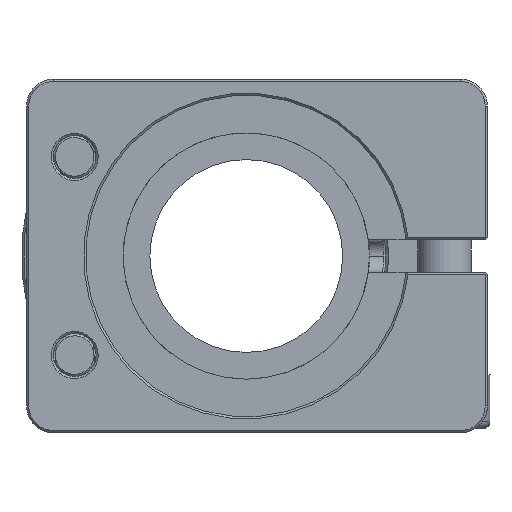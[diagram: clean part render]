
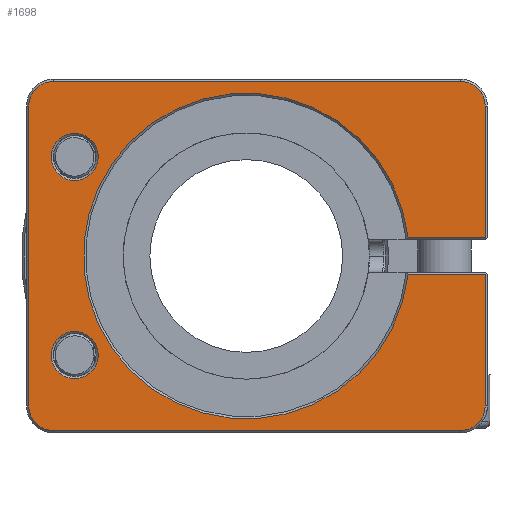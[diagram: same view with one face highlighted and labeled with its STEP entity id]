
A CAD part, front view. The second image highlights one B-rep face of the part: STEP entity #1698.
In plain terms, the highlighted planar face has unit normal (0, -1, 0).
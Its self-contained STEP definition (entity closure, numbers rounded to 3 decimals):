
#1571=FACE_BOUND('',#2147,.T.);
#1572=FACE_BOUND('',#2148,.T.);
#1573=FACE_BOUND('',#2149,.T.);
#1698=ADVANCED_FACE('',(#1571,#1572,#1573),#1890,.F.);
#1890=PLANE('',#4551);
#2147=EDGE_LOOP('',(#2595,#2596,#2597,#2598,#2599,#2600,#2601,#2602,#2603,
#2604,#2605,#2606));
#2148=EDGE_LOOP('',(#2607));
#2149=EDGE_LOOP('',(#2608));
#2416=CIRCLE('',#4544,2.3);
#2417=CIRCLE('',#4545,2.3);
#2418=CIRCLE('',#4546,2.3);
#2419=CIRCLE('',#4547,2.3);
#2420=CIRCLE('',#4548,15.2);
#2421=CIRCLE('',#4549,2.2);
#2422=CIRCLE('',#4550,2.2);
#2595=ORIENTED_EDGE('',*,*,#3698,.T.);
#2596=ORIENTED_EDGE('',*,*,#3699,.T.);
#2597=ORIENTED_EDGE('',*,*,#3700,.T.);
#2598=ORIENTED_EDGE('',*,*,#3701,.T.);
#2599=ORIENTED_EDGE('',*,*,#3702,.T.);
#2600=ORIENTED_EDGE('',*,*,#3703,.T.);
#2601=ORIENTED_EDGE('',*,*,#3704,.T.);
#2602=ORIENTED_EDGE('',*,*,#3705,.T.);
#2603=ORIENTED_EDGE('',*,*,#3706,.T.);
#2604=ORIENTED_EDGE('',*,*,#3707,.T.);
#2605=ORIENTED_EDGE('',*,*,#3708,.T.);
#2606=ORIENTED_EDGE('',*,*,#3709,.T.);
#2607=ORIENTED_EDGE('',*,*,#3710,.T.);
#2608=ORIENTED_EDGE('',*,*,#3711,.T.);
#3419=VERTEX_POINT('',#5862);
#3420=VERTEX_POINT('',#5863);
#3421=VERTEX_POINT('',#5865);
#3422=VERTEX_POINT('',#5867);
#3423=VERTEX_POINT('',#5869);
#3424=VERTEX_POINT('',#5871);
#3425=VERTEX_POINT('',#5873);
#3426=VERTEX_POINT('',#5875);
#3427=VERTEX_POINT('',#5877);
#3428=VERTEX_POINT('',#5879);
#3429=VERTEX_POINT('',#5881);
#3430=VERTEX_POINT('',#5883);
#3431=VERTEX_POINT('',#5886);
#3432=VERTEX_POINT('',#5888);
#3698=EDGE_CURVE('',#3419,#3420,#4090,.T.);
#3699=EDGE_CURVE('',#3420,#3421,#2416,.T.);
#3700=EDGE_CURVE('',#3421,#3422,#4091,.T.);
#3701=EDGE_CURVE('',#3422,#3423,#2417,.T.);
#3702=EDGE_CURVE('',#3423,#3424,#4092,.T.);
#3703=EDGE_CURVE('',#3424,#3425,#2418,.T.);
#3704=EDGE_CURVE('',#3425,#3426,#4093,.T.);
#3705=EDGE_CURVE('',#3426,#3427,#2419,.T.);
#3706=EDGE_CURVE('',#3427,#3428,#4094,.T.);
#3707=EDGE_CURVE('',#3428,#3429,#4095,.T.);
#3708=EDGE_CURVE('',#3429,#3430,#2420,.T.);
#3709=EDGE_CURVE('',#3430,#3419,#4096,.T.);
#3710=EDGE_CURVE('',#3431,#3431,#2421,.T.);
#3711=EDGE_CURVE('',#3432,#3432,#2422,.T.);
#4090=LINE('',#5861,#4317);
#4091=LINE('',#5866,#4318);
#4092=LINE('',#5870,#4319);
#4093=LINE('',#5874,#4320);
#4094=LINE('',#5878,#4321);
#4095=LINE('',#5880,#4322);
#4096=LINE('',#5884,#4323);
#4317=VECTOR('',#4946,1.);
#4318=VECTOR('',#4949,1.);
#4319=VECTOR('',#4952,1.);
#4320=VECTOR('',#4955,1.);
#4321=VECTOR('',#4958,1.);
#4322=VECTOR('',#4959,1.);
#4323=VECTOR('',#4962,1.);
#4544=AXIS2_PLACEMENT_3D('',#5864,#4947,#4948);
#4545=AXIS2_PLACEMENT_3D('',#5868,#4950,#4951);
#4546=AXIS2_PLACEMENT_3D('',#5872,#4953,#4954);
#4547=AXIS2_PLACEMENT_3D('',#5876,#4956,#4957);
#4548=AXIS2_PLACEMENT_3D('',#5882,#4960,#4961);
#4549=AXIS2_PLACEMENT_3D('',#5885,#4963,#4964);
#4550=AXIS2_PLACEMENT_3D('',#5887,#4965,#4966);
#4551=AXIS2_PLACEMENT_3D('',#5889,#4967,#4968);
#4946=DIRECTION('',(0.,0.,1.));
#4947=DIRECTION('',(0.,-1.,0.));
#4948=DIRECTION('',(0.,0.,1.));
#4949=DIRECTION('',(-1.,0.,0.));
#4950=DIRECTION('',(0.,-1.,0.));
#4951=DIRECTION('',(0.,0.,1.));
#4952=DIRECTION('',(0.,0.,-1.));
#4953=DIRECTION('',(0.,-1.,0.));
#4954=DIRECTION('',(0.,0.,1.));
#4955=DIRECTION('',(1.,0.,0.));
#4956=DIRECTION('',(0.,-1.,0.));
#4957=DIRECTION('',(0.,0.,1.));
#4958=DIRECTION('',(0.,0.,1.));
#4959=DIRECTION('',(-1.,0.,0.));
#4960=DIRECTION('',(0.,1.,0.));
#4961=DIRECTION('',(0.,0.,1.));
#4962=DIRECTION('',(1.,0.,0.));
#4963=DIRECTION('',(0.,1.,0.));
#4964=DIRECTION('',(0.,0.,1.));
#4965=DIRECTION('',(0.,1.,0.));
#4966=DIRECTION('',(0.,0.,1.));
#4967=DIRECTION('',(0.,1.,0.));
#4968=DIRECTION('',(0.,0.,1.));
#5861=CARTESIAN_POINT('',(18.989,-10.65,35.));
#5862=CARTESIAN_POINT('',(18.989,-10.65,36.7));
#5863=CARTESIAN_POINT('',(18.989,-10.65,49.));
#5864=CARTESIAN_POINT('',(16.689,-10.65,49.));
#5865=CARTESIAN_POINT('',(16.689,-10.65,51.3));
#5866=CARTESIAN_POINT('',(-3.311,-10.65,51.3));
#5867=CARTESIAN_POINT('',(-21.311,-10.65,51.3));
#5868=CARTESIAN_POINT('',(-21.311,-10.65,49.));
#5869=CARTESIAN_POINT('',(-23.611,-10.65,49.));
#5870=CARTESIAN_POINT('',(-23.611,-10.65,35.));
#5871=CARTESIAN_POINT('',(-23.611,-10.65,21.));
#5872=CARTESIAN_POINT('',(-21.311,-10.65,21.));
#5873=CARTESIAN_POINT('',(-21.311,-10.65,18.7));
#5874=CARTESIAN_POINT('',(-3.311,-10.65,18.7));
#5875=CARTESIAN_POINT('',(16.689,-10.65,18.7));
#5876=CARTESIAN_POINT('',(16.689,-10.65,21.));
#5877=CARTESIAN_POINT('',(18.989,-10.65,21.));
#5878=CARTESIAN_POINT('',(18.989,-10.65,35.));
#5879=CARTESIAN_POINT('',(18.989,-10.65,33.3));
#5880=CARTESIAN_POINT('',(-3.311,-10.65,33.3));
#5881=CARTESIAN_POINT('',(11.794,-10.65,33.3));
#5882=CARTESIAN_POINT('',(-3.311,-10.65,35.));
#5883=CARTESIAN_POINT('',(11.794,-10.65,36.7));
#5884=CARTESIAN_POINT('',(-3.311,-10.65,36.7));
#5885=CARTESIAN_POINT('',(-19.332,-10.65,25.75));
#5886=CARTESIAN_POINT('',(-19.332,-10.65,27.95));
#5887=CARTESIAN_POINT('',(-19.332,-10.65,44.25));
#5888=CARTESIAN_POINT('',(-19.332,-10.65,46.45));
#5889=CARTESIAN_POINT('',(-3.311,-10.65,35.));
